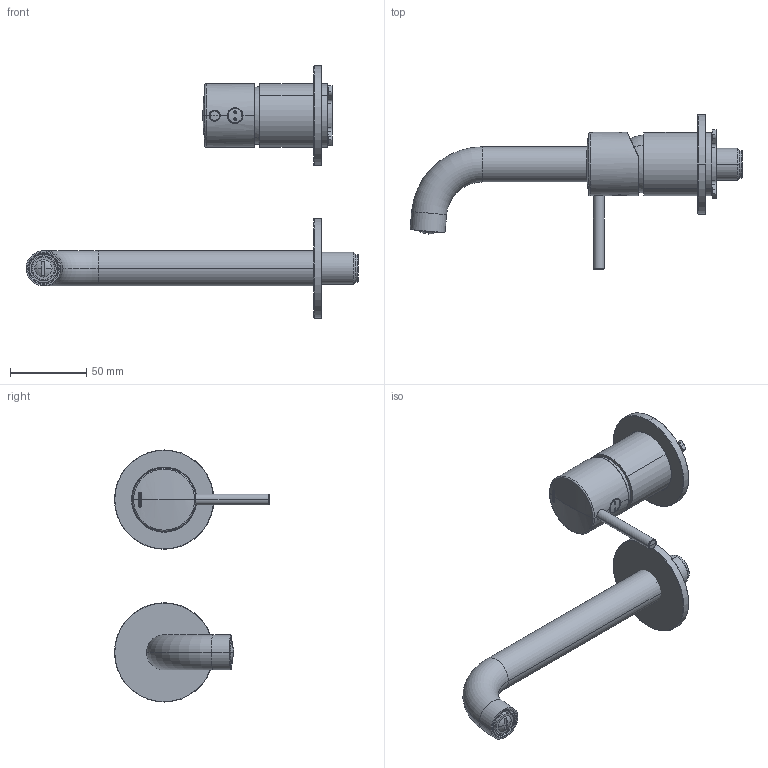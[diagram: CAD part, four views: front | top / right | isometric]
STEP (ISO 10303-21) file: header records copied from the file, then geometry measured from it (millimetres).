
FILE_DESCRIPTION((''),'2;1');
FILE_NAME('14626--00_ASM','2022-05-11T07:30:55',('lalo2'),(''),'CREO PARAMETRIC BY PTC INC, 2018190','CREO PARAMETRIC BY PTC INC, 2018190','');
FILE_SCHEMA(('CONFIG_CONTROL_DESIGN'));
Products named in the file (22): 4600300; 4600500; 4617400; 46077--_ASM; 4607900; 46160--_ASM; 4496300; 44970--; 43967--; 46002--_ASM; 46127--_DAM; 46128--; 4900100; 46129--_ASM; 46173--; 46081--; 4400900; 46157--_ASM; 46080--; 4396500; 46158--_ASM; 14626--00_ASM
Assembly tree (21 placements, depth 4):
  14626--00_ASM
    46160--_ASM
      46077--_ASM
        4600300
        4600500
        4617400
      4607900
    46002--_ASM
      4496300
      44970--
      43967--
    46129--_ASM
      46127--_DAM
      46128--
      4900100
    46173--
    46157--_ASM
      46081--
      4400900
    46158--_ASM
      46080--
      4396500
Bounding box: 217.35 x 101.51 x 165 mm (x, y, z)
Volume: 79735.8 mm3; surface area: 94390.6 mm2
Topology: 15 solids, 28 shells, 2023 faces, 5357 edges, 3451 vertices
Faces by surface type: plane 811, extrusion 603, cylinder 242, bspline 112, torus 90, cone 88, sphere 77
Entity records: 71641 total; most frequent: CARTESIAN_POINT 22731, ORIENTED_EDGE 10606, DIRECTION 9068, EDGE_CURVE 5341, VERTEX_POINT 3451, AXIS2_PLACEMENT_3D 3241, VECTOR 2586, EDGE_LOOP 2160
